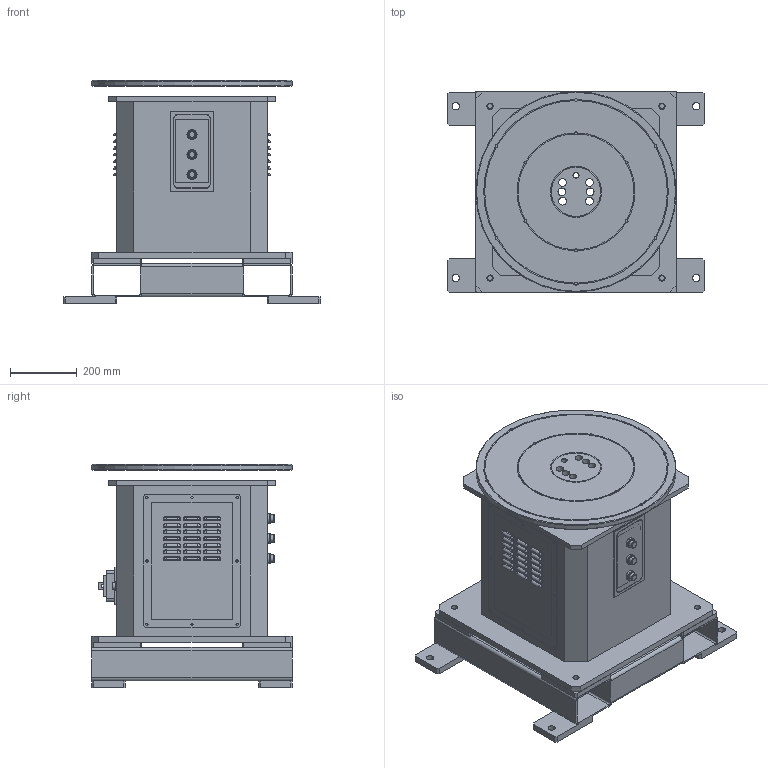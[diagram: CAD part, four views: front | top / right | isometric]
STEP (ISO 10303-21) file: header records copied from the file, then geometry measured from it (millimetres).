
FILE_DESCRIPTION (( 'STEP AP203' ), '1' );
FILE_NAME ('GS-SWP-P-200-00.STEP', '2020-07-06T07:49:33', ( 'Microsoft' ), ( 'Microsoft' ), 'SwSTEP 2.0', 'SolidWorks 2016', '' );
FILE_SCHEMA (( 'CONFIG_CONTROL_DESIGN' ));
Length unit declared in the file: millimetre
Products named in the file (1): GS-SWP-P-200-00
Bounding box: 770 x 600 x 668 mm (x, y, z)
Surface area: 4768969.4 mm2 (no closed solid volume)
Topology: 0 solids, 57 shells, 712 faces, 2047 edges, 1384 vertices
Faces by surface type: plane 269, cylinder 253, torus 103, sphere 84, cone 3
Full cylindrical faces by diameter (mm): 2.175 x3, 3.2 x4, 3.5 x14, 4.4 x4, 6 x2, 6.5 x6, 6.6 x16, 8.5 x12, 11 x1, 14 x8, 16 x1, 18.5 x4, 20 x1, 22 x7, 23 x6, 30 x3, 600 x1
Entity records: 24364 total; most frequent: CARTESIAN_POINT 5901, DIRECTION 3966, ORIENTED_EDGE 3321, EDGE_CURVE 1902, AXIS2_PLACEMENT_3D 1543, VERTEX_POINT 1342, EDGE_LOOP 1023, LINE 880
